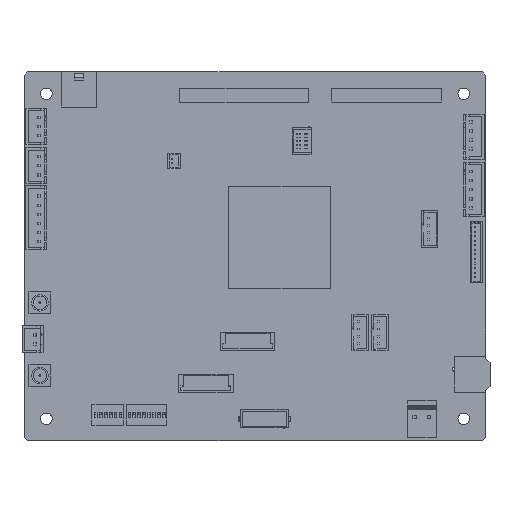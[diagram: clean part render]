
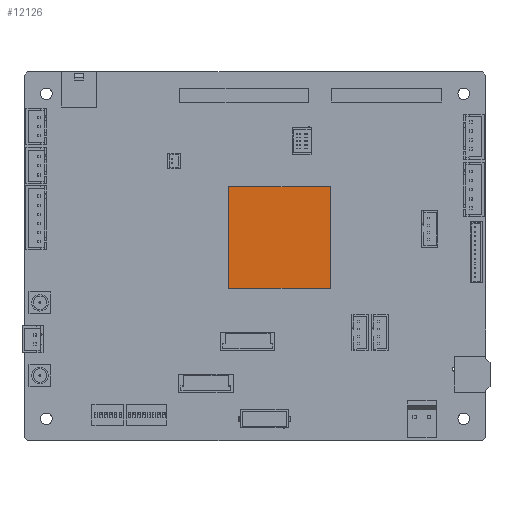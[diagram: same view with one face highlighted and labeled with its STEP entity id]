
A CAD part, top view. The second image highlights one B-rep face of the part: STEP entity #12126.
In plain terms, the highlighted planar face has unit normal (0, 0, 1).
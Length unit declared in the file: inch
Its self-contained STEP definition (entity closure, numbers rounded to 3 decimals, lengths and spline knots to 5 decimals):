
#112 = EDGE_CURVE ( 'NONE', #19607, #4549, #6077, .T. ) ;
#493 = CARTESIAN_POINT ( 'NONE',  ( 0.815, -0.345, 0.09843 ) ) ;
#1874 = DIRECTION ( 'NONE',  ( -1., 0., 0. ) ) ;
#2260 = VECTOR ( 'NONE', #16001, 39.37008 ) ;
#3904 = EDGE_CURVE ( 'NONE', #30391, #5414, #29000, .T. ) ;
#4549 = VERTEX_POINT ( 'NONE', #15078 ) ;
#5414 = VERTEX_POINT ( 'NONE', #7763 ) ;
#6077 = LINE ( 'NONE', #28455, #14821 ) ;
#6797 = FACE_OUTER_BOUND ( 'NONE', #29356, .T. ) ;
#6897 = ORIENTED_EDGE ( 'NONE', *, *, #16683, .T. ) ;
#6962 = CARTESIAN_POINT ( 'NONE',  ( 0., 0., 0.09843 ) ) ;
#7687 = EDGE_CURVE ( 'NONE', #4549, #30391, #23336, .T. ) ;
#7763 = CARTESIAN_POINT ( 'NONE',  ( -0.285, 0.755, 0.09843 ) ) ;
#9796 = ORIENTED_EDGE ( 'NONE', *, *, #3904, .T. ) ;
#10665 = DIRECTION ( 'NONE',  ( 1., 0., 0. ) ) ;
#10768 = CARTESIAN_POINT ( 'NONE',  ( -0.285, -0.345, 0.09843 ) ) ;
#12126 = ADVANCED_FACE ( 'NONE', ( #6797 ), #31941, .F. ) ;
#12936 = ORIENTED_EDGE ( 'NONE', *, *, #112, .T. ) ;
#13587 = VECTOR ( 'NONE', #21530, 39.37008 ) ;
#13974 = CARTESIAN_POINT ( 'NONE',  ( 0.815, 0.755, 0.09843 ) ) ;
#14821 = VECTOR ( 'NONE', #10665, 39.37008 ) ;
#15078 = CARTESIAN_POINT ( 'NONE',  ( 0.815, -0.345, 0.09843 ) ) ;
#15818 = VECTOR ( 'NONE', #1874, 39.37008 ) ;
#16001 = DIRECTION ( 'NONE',  ( 0., 1., 0. ) ) ;
#16017 = AXIS2_PLACEMENT_3D ( 'NONE', #6962, #26726, #26881 ) ;
#16433 = CARTESIAN_POINT ( 'NONE',  ( -0.285, 0.755, 0.09843 ) ) ;
#16683 = EDGE_CURVE ( 'NONE', #5414, #19607, #23357, .T. ) ;
#19376 = ORIENTED_EDGE ( 'NONE', *, *, #7687, .T. ) ;
#19607 = VERTEX_POINT ( 'NONE', #10768 ) ;
#21530 = DIRECTION ( 'NONE',  ( 0., -1., 0. ) ) ;
#23336 = LINE ( 'NONE', #493, #2260 ) ;
#23357 = LINE ( 'NONE', #26420, #13587 ) ;
#26420 = CARTESIAN_POINT ( 'NONE',  ( -0.285, -0.345, 0.09843 ) ) ;
#26726 = DIRECTION ( 'NONE',  ( 0., 0., -1. ) ) ;
#26881 = DIRECTION ( 'NONE',  ( -1., 0., 0. ) ) ;
#28455 = CARTESIAN_POINT ( 'NONE',  ( -0.285, -0.345, 0.09843 ) ) ;
#29000 = LINE ( 'NONE', #16433, #15818 ) ;
#29356 = EDGE_LOOP ( 'NONE', ( #6897, #12936, #19376, #9796 ) ) ;
#30391 = VERTEX_POINT ( 'NONE', #13974 ) ;
#31941 = PLANE ( 'NONE',  #16017 ) ;
